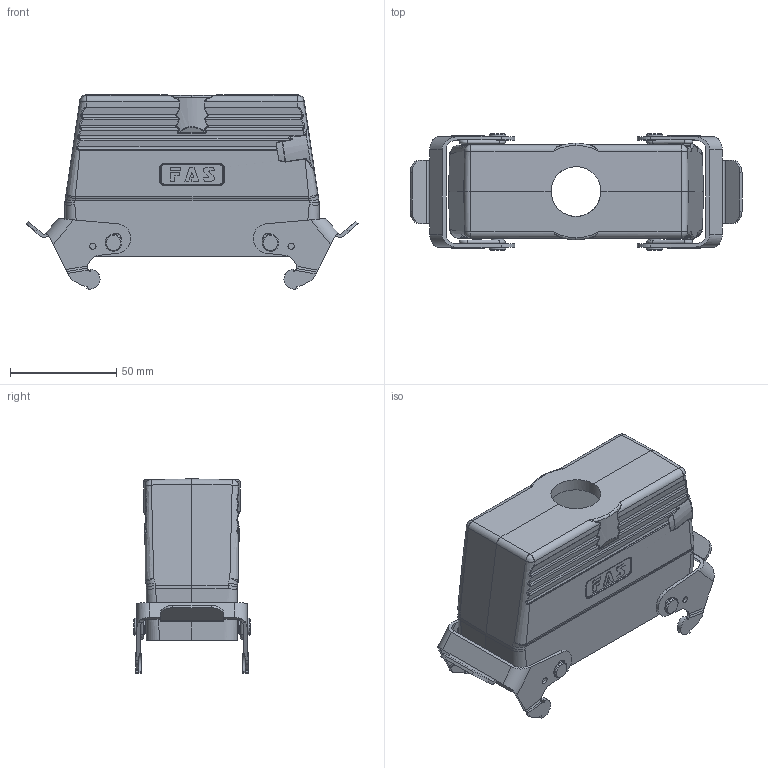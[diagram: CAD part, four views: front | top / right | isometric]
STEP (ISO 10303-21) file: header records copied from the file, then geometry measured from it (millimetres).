
FILE_DESCRIPTION (( 'STEP AP203' ), '1' );
FILE_NAME ('H24B-TBFH-M25.STEP', '2023-06-13T06:08:00', ( '' ), ( '' ), 'SwSTEP 2.0', 'SolidWorks 2016', '' );
FILE_SCHEMA (( 'CONFIG_CONTROL_DESIGN' ));
Length unit declared in the file: millimetre
Products named in the file (1): H24B-TBFH-M25
Bounding box: 156.49 x 55 x 91.56 mm (x, y, z)
Volume: 120032.1 mm3; surface area: 64093.7 mm2
Topology: 1 solids, 1 shells, 806 faces, 2166 edges, 1383 vertices
Faces by surface type: cylinder 271, plane 252, bspline 198, torus 38, cone 35, sphere 12
Full cylindrical faces by diameter (mm): 1.8 x4, 3 x4, 3.3 x4, 4 x8, 6 x4, 8 x4, 23.5 x1
Entity records: 38908 total; most frequent: CARTESIAN_POINT 21898, ORIENTED_EDGE 4096, DIRECTION 2635, EDGE_CURVE 2048, VERTEX_POINT 1331, AXIS2_PLACEMENT_3D 956, EDGE_LOOP 907, B_SPLINE_CURVE_WITH_KNOTS 850
